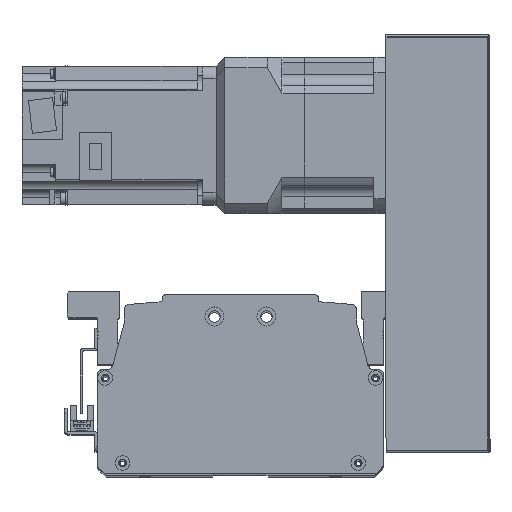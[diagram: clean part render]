
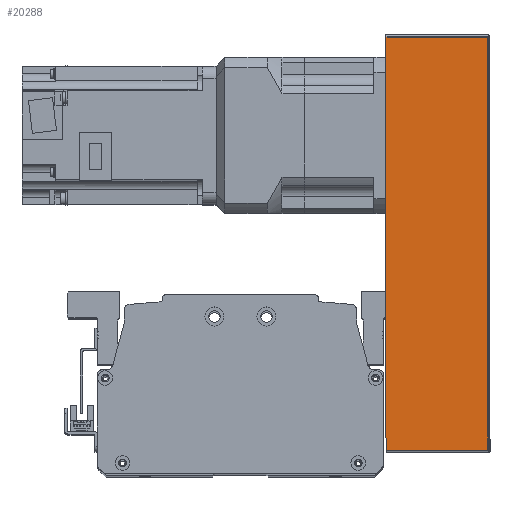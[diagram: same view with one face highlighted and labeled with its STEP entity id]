
A CAD part, top view. The second image highlights one B-rep face of the part: STEP entity #20288.
In plain terms, the highlighted planar face has unit normal (0, 0, 1) as drawn and (0, -1, 0) by its records, which use the part's own axes.
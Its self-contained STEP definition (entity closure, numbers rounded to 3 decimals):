
#542=PLANE('',#22076);
#1660=LINE('',#32149,#3320);
#1686=LINE('',#32245,#3346);
#1687=LINE('',#32253,#3347);
#1694=LINE('',#32278,#3354);
#3320=VECTOR('',#26111,10.);
#3346=VECTOR('',#26229,10.);
#3347=VECTOR('',#26240,10.);
#3354=VECTOR('',#26275,10.);
#5275=FACE_OUTER_BOUND('',#6639,.T.);
#6639=EDGE_LOOP('',(#15940,#15941,#15942,#15943));
#9425=VERTEX_POINT('',#32146);
#9426=VERTEX_POINT('',#32148);
#9450=VERTEX_POINT('',#32241);
#9451=VERTEX_POINT('',#32247);
#11744=EDGE_CURVE('',#9426,#9425,#1660,.T.);
#11794=EDGE_CURVE('',#9425,#9450,#1686,.T.);
#11798=EDGE_CURVE('',#9451,#9426,#1687,.T.);
#11811=EDGE_CURVE('',#9450,#9451,#1694,.T.);
#15940=ORIENTED_EDGE('',*,*,#11794,.T.);
#15941=ORIENTED_EDGE('',*,*,#11811,.T.);
#15942=ORIENTED_EDGE('',*,*,#11798,.T.);
#15943=ORIENTED_EDGE('',*,*,#11744,.T.);
#20288=ADVANCED_FACE('',(#5275),#542,.F.);
#22076=AXIS2_PLACEMENT_3D('',#32284,#26285,#26286);
#26111=DIRECTION('',(1.,0.,0.));
#26229=DIRECTION('',(0.,0.,1.));
#26240=DIRECTION('',(0.,0.,-1.));
#26275=DIRECTION('',(-1.,0.,0.));
#26285=DIRECTION('center_axis',(0.,1.,0.));
#26286=DIRECTION('ref_axis',(1.,0.,0.));
#32146=CARTESIAN_POINT('',(119.5,-51.,-30.));
#32148=CARTESIAN_POINT('',(-119.5,-51.,-30.));
#32149=CARTESIAN_POINT('',(120.5,-51.,-30.));
#32241=CARTESIAN_POINT('',(119.5,-51.,29.));
#32245=CARTESIAN_POINT('',(119.5,-51.,0.));
#32247=CARTESIAN_POINT('',(-119.5,-51.,29.));
#32253=CARTESIAN_POINT('',(-119.5,-51.,0.));
#32278=CARTESIAN_POINT('',(-60.25,-51.,29.));
#32284=CARTESIAN_POINT('Origin',(-120.5,-51.,0.));
